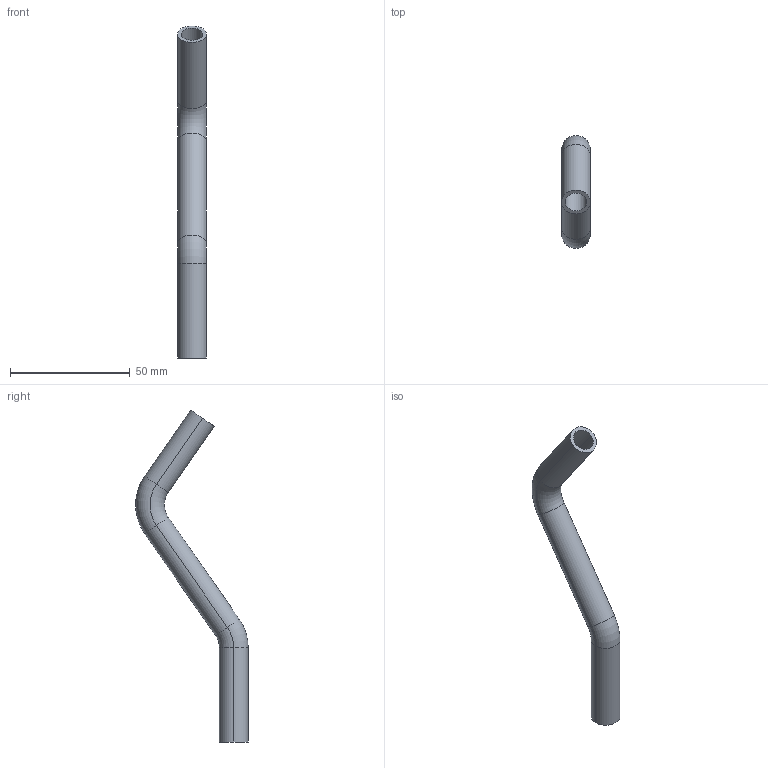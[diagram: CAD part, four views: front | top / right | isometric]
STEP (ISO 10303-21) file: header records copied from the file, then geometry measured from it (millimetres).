
FILE_DESCRIPTION(('OneSpaceDesigner STEP Export'),'2;1');
FILE_NAME('C1417 12x12.stp','2010-06-15T14:36:49',(''),(''),'OneSpace Designer STEP processor for AP214 (Solid Model)','OneSpace Modeling 15.00A 14-Mar-2007 (C) CoCreate Software GmbH','');
FILE_SCHEMA(('AUTOMOTIVE_DESIGN { 1 0 10303 214 1 1 1 1 }'));
Length unit declared in the file: millimetre
Products named in the file (2): C1417_12x12
Assembly tree (1 placements, depth 2):
  C1417_12x12
    C1417_12x12
Bounding box: 12 x 46.92 x 138.57 mm (x, y, z)
Volume: 7526.8 mm3; surface area: 10134.6 mm2
Topology: 1 solids, 1 shells, 22 faces, 44 edges, 24 vertices
Faces by surface type: cylinder 12, torus 8, plane 2
Entity records: 531 total; most frequent: DIRECTION 88, ORIENTED_EDGE 88, CARTESIAN_POINT 74, EDGE_CURVE 44, AXIS2_PLACEMENT_3D 38, CIRCLE 24, VERTEX_POINT 24, EDGE_LOOP 24
